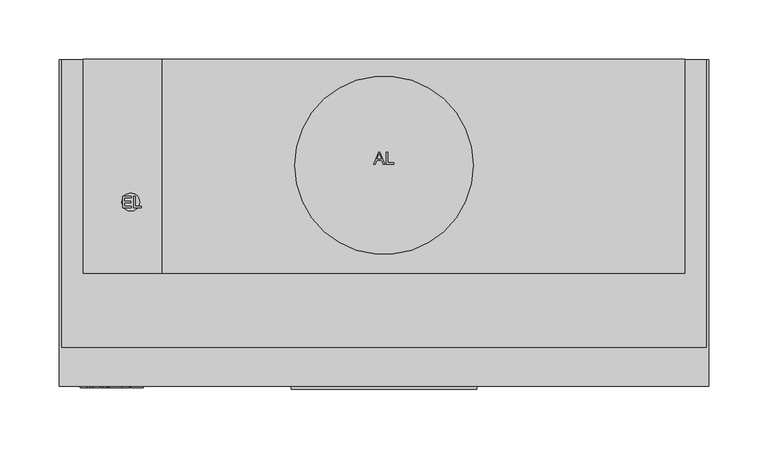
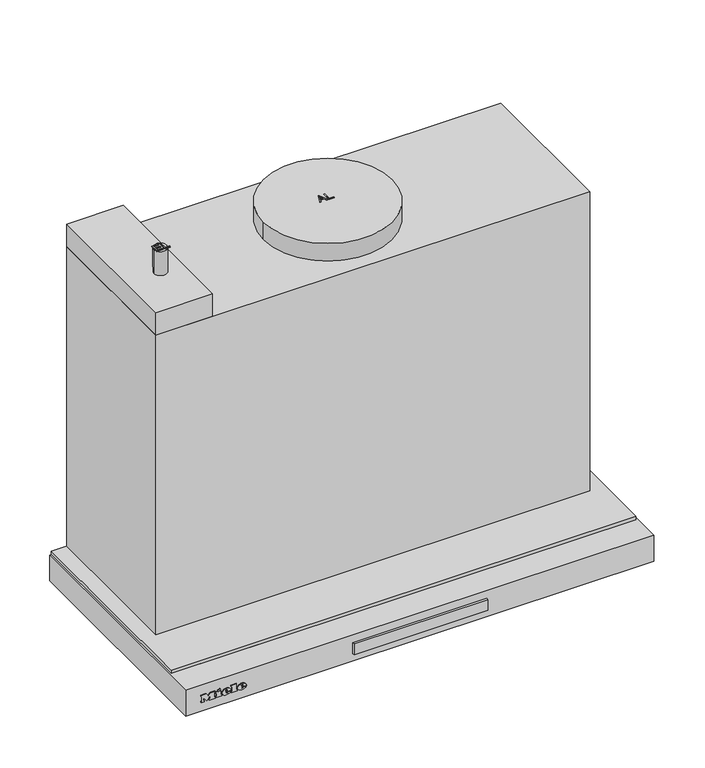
"""IFC4 building model written with IfcOpenShell, lengths in millimetres: proxy geometry, 12541030_CH_DAS4520_MASW : 28S4520M_CH_12541030_DAS4520_MASW."""

import ifcopenshell
import ifcopenshell.guid

model = None  # the IFC model being written
_history = None  # IfcOwnerHistory: only IFC2X3 demands one
_inside = {}  # id of a spatial element -> (the spatial element, [elements in it])
_under = {}  # id of a project, library or spatial element -> (it, [spatial elements below it])
_declared = {}  # id of a project -> (the project, [libraries it declares])
_typed = {}  # id of a type object -> (the type object, [elements of that type])
_made_of = {}  # id of a material, layer set ... -> (it, [elements and type objects made of it])


def new_model(schema):
    """Start an empty IFC model of exactly this schema.

    Asked for "IFC4X3", IfcOpenShell would pick the latest addendum, in which some entities
    have other attributes; the version numbers below select the first issue.
    IFC2X3 requires an IfcOwnerHistory on every rooted entity: one is made here for all.
    """
    global model, _history
    if schema == "IFC4X3":
        model = ifcopenshell.file(schema_version=(4, 3, 0, 0))
    else:
        model = ifcopenshell.file(schema=schema)
    _inside.clear()
    _under.clear()
    _declared.clear()
    _typed.clear()
    _made_of.clear()
    _history = None
    if model.schema == "IFC2X3":
        org = make("IfcOrganization", Name="unknown")
        user = make(
            "IfcPersonAndOrganization",
            ThePerson=make("IfcPerson", FamilyName="unknown"),
            TheOrganization=org,
        )
        app = make(
            "IfcApplication",
            ApplicationDeveloper=org,
            Version="unknown",
            ApplicationFullName="unknown",
            ApplicationIdentifier="unknown",
        )
        _history = make(
            "IfcOwnerHistory",
            OwningUser=user,
            OwningApplication=app,
            ChangeAction="ADDED",
            CreationDate=0,
        )
    return model


def make(cls, **values):
    """One entity of the class cls with the attributes given. An attribute that is None is left unset."""
    return model.create_entity(
        cls, **{name: value for name, value in values.items() if value is not None}
    )


def rooted(cls, **values):
    """An entity with a GlobalId (a new one), such as an element, a storey or a relation."""
    return make(cls, GlobalId=ifcopenshell.guid.new(), OwnerHistory=_history, **values)


def si_unit(unit_type, name, prefix=None):
    """IfcSIUnit, for example si_unit("LENGTHUNIT", "METRE", prefix="MILLI")."""
    return make("IfcSIUnit", UnitType=unit_type, Prefix=prefix, Name=name)


def assignment(units):
    """IfcUnitAssignment: the units of a project."""
    return None if units is None else make("IfcUnitAssignment", Units=units)


def point(xyz):
    """IfcCartesianPoint."""
    return None if xyz is None else make("IfcCartesianPoint", Coordinates=xyz)


def direction(xyz):
    """IfcDirection."""
    return None if xyz is None else make("IfcDirection", DirectionRatios=xyz)


def frame(location, z_axis=None, x_axis=None):
    """IfcAxis2Placement3D, a coordinate frame: its origin and axes. An axis left out is left unset."""
    return make(
        "IfcAxis2Placement3D",
        Location=point(location),
        Axis=direction(z_axis),
        RefDirection=direction(x_axis),
    )


def frame_2d(location, x_axis=None):
    """IfcAxis2Placement2D, a coordinate frame in the plane: its origin and x axis."""
    return make(
        "IfcAxis2Placement2D", Location=point(location), RefDirection=direction(x_axis)
    )


def origin():
    """The frame at (0, 0, 0) with its axes left unset."""
    return frame((0.0, 0.0, 0.0))


def origin_with_axes():
    """The frame at (0, 0, 0) with the z axis (0, 0, 1) and the x axis (1, 0, 0) written out."""
    return frame((0.0, 0.0, 0.0), z_axis=(0.0, 0.0, 1.0), x_axis=(1.0, 0.0, 0.0))


def place(relative_to, where):
    """IfcLocalPlacement: puts the frame where relative to a parent placement (None: the world)."""
    return make(
        "IfcLocalPlacement", PlacementRelTo=relative_to, RelativePlacement=where
    )


def context(
    kind, dimensions, precision=None, world=None, true_north=None, identifier=None
):
    """IfcGeometricRepresentationContext, for example the 3D "Model" context."""
    return make(
        "IfcGeometricRepresentationContext",
        ContextIdentifier=identifier,
        ContextType=kind,
        CoordinateSpaceDimension=dimensions,
        Precision=precision,
        WorldCoordinateSystem=world,
        TrueNorth=true_north,
    )


def project(units=None, contexts=None):
    """IfcProject with its units and contexts."""
    return rooted(
        "IfcProject",
        Name="project",
        RepresentationContexts=contexts,
        UnitsInContext=assignment(units),
    )


def spatial(cls, under=None, at=None, **own):
    """A site, building, storey or space (cls), placed at a placement, below another one or the project."""
    s = rooted(cls, ObjectPlacement=at, **own)
    if under is not None:
        _under.setdefault(under.id(), (under, []))[1].append(s)
    return s


def polyline(points):
    """IfcPolyline through the points."""
    return make("IfcPolyline", Points=[point(p) for p in points])


def circle_curve(where, radius):
    """IfcCircle in the frame where."""
    return make("IfcCircle", Position=where, Radius=radius)


def ellipse_curve(where, semi_axis1, semi_axis2):
    """IfcEllipse in the frame where."""
    return make(
        "IfcEllipse", Position=where, SemiAxis1=semi_axis1, SemiAxis2=semi_axis2
    )


def trimmed(basis, trim1, trim2, sense, master):
    """IfcTrimmedCurve: the piece of a basis curve between two trims."""
    return make(
        "IfcTrimmedCurve",
        BasisCurve=basis,
        Trim1=trim1,
        Trim2=trim2,
        SenseAgreement=sense,
        MasterRepresentation=master,
    )


def segment(curve, same_sense, transition):
    """IfcCompositeCurveSegment."""
    return make(
        "IfcCompositeCurveSegment",
        Transition=transition,
        SameSense=same_sense,
        ParentCurve=curve,
    )


def composite_curve(segments, self_intersect=None):
    """IfcCompositeCurve: segments joined end to end."""
    return make("IfcCompositeCurve", Segments=segments, SelfIntersect=self_intersect)


def outline(outer, holes=None, kind="AREA"):
    """IfcArbitraryClosedProfileDef: a profile drawn as a closed curve; with holes, ...WithVoids."""
    if holes is None:
        return make("IfcArbitraryClosedProfileDef", ProfileType=kind, OuterCurve=outer)
    return make(
        "IfcArbitraryProfileDefWithVoids",
        ProfileType=kind,
        OuterCurve=outer,
        InnerCurves=holes,
    )


def extrude(swept, where, along, depth):
    """IfcExtrudedAreaSolid: the profile swept, set in the frame where, extruded along a direction by depth."""
    return make(
        "IfcExtrudedAreaSolid",
        SweptArea=swept,
        Position=where,
        ExtrudedDirection=direction(along),
        Depth=depth,
    )


def faces_of(points, faces, orient=None, outer=None):
    """IfcFace entities. A face is a list of loops; a loop is a list of indices into points, from 0.

    orient and outer hold one flag for each loop. By default every Orientation is true, the
    first loop of a face is its IfcFaceOuterBound and the others are IfcFaceBound.
    """
    made = []
    for i, loops in enumerate(faces):
        bounds = []
        for j, loop in enumerate(loops):
            is_outer = j == 0 if outer is None else outer[i][j]
            bounds.append(
                make(
                    "IfcFaceOuterBound" if is_outer else "IfcFaceBound",
                    Bound=make("IfcPolyLoop", Polygon=[points[k] for k in loop]),
                    Orientation=True if orient is None else orient[i][j],
                )
            )
        made.append(make("IfcFace", Bounds=bounds))
    return made


def faceted_brep(points, faces, orient=None, outer=None, voids=None):
    """IfcFacetedBrep: a solid bounded by flat faces; with voids (closed shells), ...WithVoids."""
    shared = [point(p) for p in points]
    hull = make("IfcClosedShell", CfsFaces=faces_of(shared, faces, orient, outer))
    if voids is None:
        return make("IfcFacetedBrep", Outer=hull)
    return make(
        "IfcFacetedBrepWithVoids",
        Outer=hull,
        Voids=[
            make(cls, CfsFaces=faces_of(shared, fs, o, b)) for cls, fs, o, b in voids
        ],
    )


def shape(context_of_items, identifier, shape_type, items):
    """IfcShapeRepresentation: the items that make up one representation, for example the "Body"."""
    return make(
        "IfcShapeRepresentation",
        ContextOfItems=context_of_items,
        RepresentationIdentifier=identifier,
        RepresentationType=shape_type,
        Items=items,
    )


def source(mapping_origin, context_of_items, identifier, shape_type, items):
    """IfcRepresentationMap: a shape defined once, which mapped items show again and again."""
    return make(
        "IfcRepresentationMap",
        MappingOrigin=mapping_origin,
        MappedRepresentation=shape(context_of_items, identifier, shape_type, items),
    )


def transform(
    local_origin,
    x_axis=None,
    y_axis=None,
    z_axis=None,
    scale=None,
    scale2=None,
    scale3=None,
    uniform=True,
):
    """IfcCartesianTransformationOperator3D, or its non-uniform kind. x_axis, y_axis, z_axis: its Axis1, 2, 3."""
    if uniform:
        return make(
            "IfcCartesianTransformationOperator3D",
            Axis1=direction(x_axis),
            Axis2=direction(y_axis),
            LocalOrigin=point(local_origin),
            Scale=scale,
            Axis3=direction(z_axis),
        )
    return make(
        "IfcCartesianTransformationOperator3DnonUniform",
        Axis1=direction(x_axis),
        Axis2=direction(y_axis),
        LocalOrigin=point(local_origin),
        Scale=scale,
        Axis3=direction(z_axis),
        Scale2=scale2,
        Scale3=scale3,
    )


def mapped(mapping_source, mapping_target):
    """IfcMappedItem: shows the shape of a source again, moved by a transform."""
    return make(
        "IfcMappedItem", MappingSource=mapping_source, MappingTarget=mapping_target
    )


def made_of(thing, what):
    """Note that an element or type object is made of a material, layer set ...; save() writes the relation."""
    if what is not None:
        _made_of.setdefault(what.id(), (what, []))[1].append(thing)
    return thing


def element(
    cls,
    number,
    at=None,
    inside=None,
    cuts=None,
    type_object=None,
    material=None,
    context=None,
    identifier="Body",
    shape_type=None,
    held_by="IfcProductDefinitionShape",
    body=None,
    shapes=None,
    **own,
):
    """One element of the class cls, such as IfcWall. Its Tag is "e" and its number.

    at: its placement. inside: the storey or other place that contains it. cuts: it is an
    opening in that element (IfcRelVoidsElement). A single representation is given by context,
    identifier, shape_type and body (its items); several are given by shapes. held_by: the class
    of the entity that holds the representations. save() writes the other relations.
    """
    e = rooted(cls, Tag="e%d" % number, ObjectPlacement=at, **own)
    if body is not None:
        shapes = [shape(context, identifier, shape_type, body)]
    if shapes is not None:
        e.Representation = make(held_by, Representations=shapes)
    if inside is not None:
        _inside.setdefault(inside.id(), (inside, []))[1].append(e)
    if cuts is not None:
        rooted(
            "IfcRelVoidsElement", RelatingBuildingElement=cuts, RelatedOpeningElement=e
        )
    if type_object is not None:
        _typed.setdefault(type_object.id(), (type_object, []))[1].append(e)
    return made_of(e, material)


def aggregate(whole, parts):
    """IfcRelAggregates: a whole, such as a stair, and the parts it consists of."""
    return rooted("IfcRelAggregates", RelatingObject=whole, RelatedObjects=parts)


def save(model, path):
    """Write the relations noted so far, then the file.

    IfcRelAggregates (storeys below a building ...), IfcRelContainedInSpatialStructure (elements
    in a storey), IfcRelDefinesByType, IfcRelAssociatesMaterial and IfcRelDeclares: one each for
    every whole, place, type object, material and project.
    """
    for whole, parts in _under.values():
        aggregate(whole, parts)
    for where, things in _inside.values():
        rooted(
            "IfcRelContainedInSpatialStructure",
            RelatedElements=things,
            RelatingStructure=where,
        )
    for kind, things in _typed.values():
        rooted("IfcRelDefinesByType", RelatedObjects=things, RelatingType=kind)
    for what, things in _made_of.values():
        rooted("IfcRelAssociatesMaterial", RelatedObjects=things, RelatingMaterial=what)
    for by, libraries in _declared.values():
        rooted("IfcRelDeclares", RelatingContext=by, RelatedDefinitions=libraries)
    model.write(path)


def plane_surface(at):
    """IfcPlane: the flat surface through the origin of the frame at, square to its z axis."""
    return make("IfcPlane", Position=at)


def cylinder_surface(at, radius):
    """IfcCylindricalSurface: all points at the distance radius from the z axis of the frame at."""
    return make("IfcCylindricalSurface", Position=at, Radius=radius)


def revolved_surface(curve, axis_point, axis_direction):
    """IfcSurfaceOfRevolution: the curve turned about the line through axis_point along axis_direction."""
    return make(
        "IfcSurfaceOfRevolution",
        SweptCurve=make("IfcArbitraryOpenProfileDef", ProfileType="CURVE", Curve=curve),
        AxisPosition=make("IfcAxis1Placement", Location=point(axis_point), Axis=direction(axis_direction)),
    )


def extruded_surface(curve, direction_of_extrusion, depth):
    """IfcSurfaceOfLinearExtrusion: the curve pushed along a direction by depth."""
    return make(
        "IfcSurfaceOfLinearExtrusion",
        SweptCurve=make("IfcArbitraryOpenProfileDef", ProfileType="CURVE", Curve=curve),
        ExtrudedDirection=direction(direction_of_extrusion),
        Depth=depth,
    )


def advanced_brep(points, edges, surfaces, faces):
    """IfcAdvancedBrep: a solid bounded by faces that lie on surfaces and meet in shared edges.

    An edge is (start, end): straight between two places in points (the first is 0);
    or (start, end, curve); or (start, end, curve, False) where it runs against its curve.
    A face is (place in surfaces, loops), or (place, loops, False) where it looks against
    its surface's normal. A loop lists edges by number (the first is 1), with a minus sign
    where the edge is run from its end to its start. The first loop is the outer one.
    """
    corners = [point(p) for p in points]
    vertices = [make("IfcVertexPoint", VertexGeometry=c) for c in corners]
    made = []
    for start, end, *more in edges:
        made.append(
            make(
                "IfcEdgeCurve",
                EdgeStart=vertices[start],
                EdgeEnd=vertices[end],
                EdgeGeometry=more[0] if more else make("IfcPolyline", Points=[corners[start], corners[end]]),
                SameSense=more[1] if len(more) > 1 else True,
            )
        )
    hull = []
    for where, loops, *sense in faces:
        bounds = []
        for j, loop in enumerate(loops):
            ring = [make("IfcOrientedEdge", EdgeElement=made[abs(k) - 1], Orientation=k > 0) for k in loop]
            bounds.append(
                make(
                    "IfcFaceOuterBound" if j == 0 else "IfcFaceBound",
                    Bound=make("IfcEdgeLoop", EdgeList=ring),
                    Orientation=True,
                )
            )
        hull.append(make("IfcAdvancedFace", Bounds=bounds, FaceSurface=surfaces[where], SameSense=sense[0] if sense else True))
    return make("IfcAdvancedBrep", Outer=make("IfcClosedShell", CfsFaces=hull))


def specialty_equipment_4cbf8bed(model_context):
    return source(origin(), model_context, "Body", "SolidModel", [
        extrude(outline(polyline([(78.0, -275.0), (78.0, -277.3978707), (-78.0, -277.3978707), (-78.0, -275.0), (78.0, -275.0)])), frame((0.0, 0.0, -23.0389651), z_axis=(0.0, 0.0, 1.0), x_axis=(1.0, 0.0, 0.0)), (0.0, 0.0, 1.0), 13.3389155),
        advanced_brep(
        [(-208.4590019, -276.0, -18.7681017), (-208.4590019, -276.0, -17.8894017), (-202.6387019, -276.0, -17.8894017), (-212.7655019, -276.0, -17.8894017), (-210.3730019, -276.0, -20.8300017), (-202.7866019, -276.0, -18.7681017), (-205.4140019, -276.0, -18.7681017), (-207.4846019, -276.0, -19.7425017), (-208.4590019, -276.0, -16.7758017), (-208.4590019, -276.0, -15.8275017), (-206.9713019, -276.0, -15.8275017), (-206.9713019, -276.0, -16.7758017), (-208.4590019, -275.0, -18.7681017), (-207.4846019, -275.0, -19.7425017), (-205.4140019, -275.0, -18.7681017), (-202.7866019, -275.0, -18.7681017), (-210.3730019, -275.0, -20.8300017), (-212.7655019, -275.0, -17.8894017), (-202.6387019, -275.0, -17.8894017), (-208.4590019, -275.0, -17.8894017), (-208.4590019, -275.0, -16.7758017), (-206.9713019, -275.0, -16.7758017), (-206.9713019, -275.0, -15.8275017), (-208.4590019, -275.0, -15.8275017)],
        [
            (0, 1),
            (1, 2),
            (2, 3, ellipse_curve(frame((-207.7021019, -276.0, -17.8894017), z_axis=(0.0, -1.0, 0.0), x_axis=(-1.0, 0.0, 0.0)), 5.0634, 4.1847)),
            (3, 4, circle_curve(frame((-209.3985544, -276.0, -17.5936017), z_axis=(0.0, -1.0, 0.0), x_axis=(0.0, 0.0, -1.0)), 3.3799161)),
            (4, 5, circle_curve(frame((-207.8034638, -276.0, -15.2968017), z_axis=(0.0, -1.0, 0.0), x_axis=(0.0, 0.0, -1.0)), 6.1007236)),
            (5, 6),
            (6, 7, circle_curve(frame((-207.0593254, -276.0, -17.9590017), z_axis=(0.0, 1.0, 0.0), x_axis=(0.0, 0.0, -1.0)), 1.8335027)),
            (7, 0, circle_curve(frame((-207.4846019, -276.0, -18.7681017), z_axis=(0.0, 1.0, 0.0), x_axis=(0.0, 0.0, -1.0)), 0.9744)),
            (8, 9),
            (9, 10, circle_curve(frame((-207.7151519, -276.0, -15.8275017), z_axis=(0.0, 1.0, 0.0), x_axis=(0.0, 0.0, -1.0)), 0.74385)),
            (10, 11),
            (11, 8),
            (12, 13, circle_curve(frame((-207.4846019, -275.0, -18.7681017), z_axis=(0.0, -1.0, 0.0), x_axis=(0.0, 0.0, -1.0)), 0.9744)),
            (13, 14, circle_curve(frame((-207.0593254, -275.0, -17.9590017), z_axis=(0.0, -1.0, 0.0), x_axis=(0.0, 0.0, -1.0)), 1.8335027)),
            (14, 15),
            (15, 16, circle_curve(frame((-207.8034638, -275.0, -15.2968017), z_axis=(0.0, 1.0, 0.0), x_axis=(0.0, 0.0, -1.0)), 6.1007236)),
            (16, 17, circle_curve(frame((-209.3985544, -275.0, -17.5936017), z_axis=(0.0, 1.0, 0.0), x_axis=(0.0, 0.0, -1.0)), 3.3799161)),
            (17, 18, ellipse_curve(frame((-207.7021019, -275.0, -17.8894017), z_axis=(0.0, 1.0, 0.0), x_axis=(-1.0, 0.0, 0.0)), 5.0634, 4.1847)),
            (18, 19),
            (19, 12),
            (20, 21),
            (21, 22),
            (22, 23, circle_curve(frame((-207.7151519, -275.0, -15.8275017), z_axis=(0.0, -1.0, 0.0), x_axis=(0.0, 0.0, -1.0)), 0.74385)),
            (23, 20),
            (0, 12),
            (19, 1),
            (18, 2),
            (5, 15),
            (14, 6),
            (17, 3),
            (13, 7),
            (16, 4),
            (8, 20),
            (23, 9),
            (22, 10),
            (21, 11),
        ],
        [
            plane_surface(frame((-208.4590019, -276.0, -17.8894017), z_axis=(0.0, -1.0, 0.0), x_axis=(0.0, 0.0, 1.0))),
            plane_surface(frame((-208.4590019, -275.0, -17.8894017), z_axis=(0.0, 1.0, 0.0), x_axis=(0.0, 0.0, -1.0))),
            plane_surface(frame((-208.4590019, -276.0, -18.7681017), z_axis=(1.0, 0.0, 0.0), x_axis=(0.0, 1.0, 0.0))),
            plane_surface(frame((-208.4590019, -276.0, -17.8894017), z_axis=(0.0, 0.0, -1.0), x_axis=(0.0, 1.0, 0.0))),
            plane_surface(frame((-202.7866019, -276.0, -18.7681017), z_axis=(0.0, 0.0, 1.0), x_axis=(0.0, 1.0, 0.0))),
            extruded_surface(trimmed(ellipse_curve(frame((-207.7021019, -274.0, -17.8894017), z_axis=(0.0, -1.0, 0.0), x_axis=(-1.0, 0.0, 0.0)), 5.0634, 4.1847), [point((-202.6387019, -274.0, -17.8894017))], [point((-212.7655019, -274.0, -17.8894017))], True, "CARTESIAN"), (0.0, -1.0, 0.0), 1.0),
            revolved_surface(polyline([(-207.0593254, -275.0, -19.792504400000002), (-207.0593254, -276.0, -19.792504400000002)]), (-207.0593254, -275.0, -17.9590017), (0.0, 1.0, 0.0)),
            revolved_surface(polyline([(-207.4846019, -275.0, -19.7425017), (-207.4846019, -276.0, -19.7425017)]), (-207.4846019, -275.0, -18.7681017), (0.0, 1.0, 0.0)),
            cylinder_surface(frame((-209.3985544, -275.0, -17.5936017), z_axis=(0.0, -1.0, 0.0), x_axis=(0.0, 0.0, -1.0)), 3.3799161),
            cylinder_surface(frame((-207.8034638, -275.0, -15.2968017), z_axis=(0.0, -1.0, 0.0), x_axis=(0.0, 0.0, -1.0)), 6.1007236),
            plane_surface(frame((-208.4590019, -276.0, -16.7758017), z_axis=(1.0, 0.0, 0.0), x_axis=(0.0, 1.0, 0.0))),
            revolved_surface(polyline([(-207.7151519, -275.0, -16.571351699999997), (-207.7151519, -276.0, -16.571351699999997)]), (-207.7151519, -275.0, -15.8275017), (0.0, 1.0, 0.0)),
            plane_surface(frame((-206.9713019, -276.0, -15.8275017), z_axis=(-1.0, 0.0, 0.0), x_axis=(0.0, 1.0, 0.0))),
            plane_surface(frame((-206.9713019, -276.0, -16.7758017), z_axis=(0.0, 0.0, 1.0), x_axis=(0.0, 1.0, 0.0))),
        ],
        [
            (0, [[1, 2, 3, 4, 5, 6, 7, 8], [9, 10, 11, 12]]),
            (1, [[13, 14, 15, 16, 17, 18, 19, 20], [21, 22, 23, 24]]),
            (2, [[-1, 25, -20, 26]]),
            (3, [[-2, -26, -19, 27]]),
            (4, [[-6, 28, -15, 29]]),
            (5, [[-3, -27, -18, 30]]),
            (6, [[-7, -29, -14, 31]]),
            (7, [[-8, -31, -13, -25]]),
            (8, [[-4, -30, -17, 32]]),
            (9, [[-5, -32, -16, -28]]),
            (10, [[-9, 33, -24, 34]]),
            (11, [[-10, -34, -23, 35]]),
            (12, [[-11, -35, -22, 36]]),
            (13, [[-12, -36, -21, -33]]),
        ],
    ),
        advanced_brep(
        [(-226.6159019, -276.0, -18.7681017), (-226.6159019, -276.0, -17.8894017), (-220.7956019, -276.0, -17.8894017), (-230.9224019, -276.0, -17.8894017), (-228.5299019, -276.0, -20.8300017), (-220.9435019, -276.0, -18.7681017), (-223.5709019, -276.0, -18.7681017), (-225.6415019, -276.0, -19.7425017), (-226.6159019, -276.0, -16.7758017), (-226.6159019, -276.0, -15.8275017), (-225.1282019, -276.0, -15.8275017), (-225.1282019, -276.0, -16.7758017), (-226.6159019, -275.0, -18.7681017), (-225.6415019, -275.0, -19.7425017), (-223.5709019, -275.0, -18.7681017), (-220.9435019, -275.0, -18.7681017), (-228.5299019, -275.0, -20.8300017), (-230.9224019, -275.0, -17.8894017), (-220.7956019, -275.0, -17.8894017), (-226.6159019, -275.0, -17.8894017), (-226.6159019, -275.0, -16.7758017), (-225.1282019, -275.0, -16.7758017), (-225.1282019, -275.0, -15.8275017), (-226.6159019, -275.0, -15.8275017)],
        [
            (0, 1),
            (1, 2),
            (2, 3, ellipse_curve(frame((-225.8590019, -276.0, -17.8894017), z_axis=(0.0, -1.0, 0.0), x_axis=(-1.0, 0.0, 0.0)), 5.0634, 4.1847)),
            (3, 4, circle_curve(frame((-227.5554544, -276.0, -17.5936017), z_axis=(0.0, -1.0, 0.0), x_axis=(0.0, 0.0, -1.0)), 3.3799161)),
            (4, 5, circle_curve(frame((-225.9603638, -276.0, -15.2968017), z_axis=(0.0, -1.0, 0.0), x_axis=(0.0, 0.0, -1.0)), 6.1007236)),
            (5, 6),
            (6, 7, circle_curve(frame((-225.2162254, -276.0, -17.9590017), z_axis=(0.0, 1.0, 0.0), x_axis=(0.0, 0.0, -1.0)), 1.8335027)),
            (7, 0, circle_curve(frame((-225.6415019, -276.0, -18.7681017), z_axis=(0.0, 1.0, 0.0), x_axis=(0.0, 0.0, -1.0)), 0.9744)),
            (8, 9),
            (9, 10, circle_curve(frame((-225.8720519, -276.0, -15.8275017), z_axis=(0.0, 1.0, 0.0), x_axis=(0.0, 0.0, -1.0)), 0.74385)),
            (10, 11),
            (11, 8),
            (12, 13, circle_curve(frame((-225.6415019, -275.0, -18.7681017), z_axis=(0.0, -1.0, 0.0), x_axis=(0.0, 0.0, -1.0)), 0.9744)),
            (13, 14, circle_curve(frame((-225.2162254, -275.0, -17.9590017), z_axis=(0.0, -1.0, 0.0), x_axis=(0.0, 0.0, -1.0)), 1.8335027)),
            (14, 15),
            (15, 16, circle_curve(frame((-225.9603638, -275.0, -15.2968017), z_axis=(0.0, 1.0, 0.0), x_axis=(0.0, 0.0, -1.0)), 6.1007236)),
            (16, 17, circle_curve(frame((-227.5554544, -275.0, -17.5936017), z_axis=(0.0, 1.0, 0.0), x_axis=(0.0, 0.0, -1.0)), 3.3799161)),
            (17, 18, ellipse_curve(frame((-225.8590019, -275.0, -17.8894017), z_axis=(0.0, 1.0, 0.0), x_axis=(-1.0, 0.0, 0.0)), 5.0634, 4.1847)),
            (18, 19),
            (19, 12),
            (20, 21),
            (21, 22),
            (22, 23, circle_curve(frame((-225.8720519, -275.0, -15.8275017), z_axis=(0.0, -1.0, 0.0), x_axis=(0.0, 0.0, -1.0)), 0.74385)),
            (23, 20),
            (0, 12),
            (19, 1),
            (18, 2),
            (5, 15),
            (14, 6),
            (17, 3),
            (13, 7),
            (16, 4),
            (8, 20),
            (23, 9),
            (22, 10),
            (21, 11),
        ],
        [
            plane_surface(frame((-226.6159019, -276.0, -17.8894017), z_axis=(0.0, -1.0, 0.0), x_axis=(0.0, 0.0, 1.0))),
            plane_surface(frame((-226.6159019, -275.0, -17.8894017), z_axis=(0.0, 1.0, 0.0), x_axis=(0.0, 0.0, -1.0))),
            plane_surface(frame((-226.6159019, -276.0, -18.7681017), z_axis=(1.0, 0.0, 0.0), x_axis=(0.0, 1.0, 0.0))),
            plane_surface(frame((-226.6159019, -276.0, -17.8894017), z_axis=(0.0, 0.0, -1.0), x_axis=(0.0, 1.0, 0.0))),
            plane_surface(frame((-220.9435019, -276.0, -18.7681017), z_axis=(0.0, 0.0, 1.0), x_axis=(0.0, 1.0, 0.0))),
            extruded_surface(trimmed(ellipse_curve(frame((-225.8590019, -274.0, -17.8894017), z_axis=(0.0, -1.0, 0.0), x_axis=(-1.0, 0.0, 0.0)), 5.0634, 4.1847), [point((-220.7956019, -274.0, -17.8894017))], [point((-230.9224019, -274.0, -17.8894017))], True, "CARTESIAN"), (0.0, -1.0, 0.0), 1.0),
            revolved_surface(polyline([(-225.2162254, -275.0, -19.792504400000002), (-225.2162254, -276.0, -19.792504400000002)]), (-225.2162254, -275.0, -17.9590017), (0.0, 1.0, 0.0)),
            revolved_surface(polyline([(-225.6415019, -275.0, -19.7425017), (-225.6415019, -276.0, -19.7425017)]), (-225.6415019, -275.0, -18.7681017), (0.0, 1.0, 0.0)),
            cylinder_surface(frame((-227.5554544, -275.0, -17.5936017), z_axis=(0.0, -1.0, 0.0), x_axis=(0.0, 0.0, -1.0)), 3.3799161),
            cylinder_surface(frame((-225.9603638, -275.0, -15.2968017), z_axis=(0.0, -1.0, 0.0), x_axis=(0.0, 0.0, -1.0)), 6.1007236),
            plane_surface(frame((-226.6159019, -276.0, -16.7758017), z_axis=(1.0, 0.0, 0.0), x_axis=(0.0, 1.0, 0.0))),
            revolved_surface(polyline([(-225.8720519, -275.0, -16.571351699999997), (-225.8720519, -276.0, -16.571351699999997)]), (-225.8720519, -275.0, -15.8275017), (0.0, 1.0, 0.0)),
            plane_surface(frame((-225.1282019, -276.0, -15.8275017), z_axis=(-1.0, 0.0, 0.0), x_axis=(0.0, 1.0, 0.0))),
            plane_surface(frame((-225.1282019, -276.0, -16.7758017), z_axis=(0.0, 0.0, 1.0), x_axis=(0.0, 1.0, 0.0))),
        ],
        [
            (0, [[1, 2, 3, 4, 5, 6, 7, 8], [9, 10, 11, 12]]),
            (1, [[13, 14, 15, 16, 17, 18, 19, 20], [21, 22, 23, 24]]),
            (2, [[-1, 25, -20, 26]]),
            (3, [[-2, -26, -19, 27]]),
            (4, [[-6, 28, -15, 29]]),
            (5, [[-3, -27, -18, 30]]),
            (6, [[-7, -29, -14, 31]]),
            (7, [[-8, -31, -13, -25]]),
            (8, [[-4, -30, -17, 32]]),
            (9, [[-5, -32, -16, -28]]),
            (10, [[-9, 33, -24, 34]]),
            (11, [[-10, -34, -23, 35]]),
            (12, [[-11, -35, -22, 36]]),
            (13, [[-12, -36, -21, -33]]),
        ],
    ),
        extrude(outline(polyline([(-12.6433017, -236.1250019), (-14.0527017, -235.4638019), (-12.6781017, -232.5145019), (-11.2687017, -233.1670019), (-12.6433017, -236.1250019)])), frame((0.0, -276.0, 0.0), z_axis=(0.0, 1.0, 0.0), x_axis=(0.0, 0.0, 1.0)), (0.0, 0.0, 1.0), 1.0),
        extrude(outline(polyline([(-14.2441017, -238.2739019), (-15.8014017, -238.2739019), (-15.8014017, -237.2386019), (-19.3684017, -237.2386019), (-19.3684017, -238.2739019), (-20.8300017, -238.2739019), (-20.8300017, -231.4096019), (-19.3684017, -231.4096019), (-19.3684017, -232.4188019), (-14.2441017, -232.4188019), (-14.2441017, -238.2739019)])), frame((0.0, -276.0, 0.0), z_axis=(0.0, 1.0, 0.0), x_axis=(0.0, 0.0, 1.0)), (0.0, 0.0, 1.0), 1.0),
        extrude(outline(polyline([(-13.5481017, -220.3084019), (-13.5481017, -219.2644019), (-19.3684017, -219.2644019), (-19.3684017, -220.3084019), (-20.8300017, -220.3084019), (-20.8300017, -213.2527019), (-19.3684017, -213.2527019), (-19.3684017, -214.3228019), (-12.1300017, -214.3228019), (-12.1300017, -220.3084019), (-13.5481017, -220.3084019)])), frame((0.0, -276.0, 0.0), z_axis=(0.0, 1.0, 0.0), x_axis=(0.0, 0.0, 1.0)), (0.0, 0.0, 1.0), 1.0),
        extrude(outline(polyline([(-13.5481017, -255.6130019), (-13.5481017, -254.5603019), (-19.3684017, -254.5603019), (-19.3684017, -255.6130019), (-20.8300017, -255.6130019), (-20.8300017, -251.7850019), (-19.3684017, -251.7850019), (-19.3684017, -252.8290019), (-15.6719769, -252.8290019), (-20.8300017, -248.9401019), (-15.5772794, -245.0338019), (-19.3684017, -245.0338019), (-19.3684017, -246.1039019), (-20.8300017, -246.1039019), (-20.8300017, -239.1613019), (-19.3684017, -239.1613019), (-19.3684017, -240.2662019), (-13.5481017, -240.2662019), (-13.5481017, -239.1613019), (-12.1300017, -239.1613019), (-12.1300017, -244.4596019), (-15.3925017, -247.0000019), (-12.1300017, -249.5491019), (-12.1300017, -255.6130019), (-13.5481017, -255.6130019)])), frame((0.0, -276.0, 0.0), z_axis=(0.0, 1.0, 0.0), x_axis=(0.0, 0.0, 1.0)), (0.0, 0.0, 1.0), 1.0),
        extrude(outline(polyline([(253.0, -180.0), (-253.0, -180.0), (-253.0, 0.0), (253.0, 0.0), (253.0, -180.0)])), frame((0.0, 0.0, 4.0), z_axis=(0.0, 0.0, 1.0), x_axis=(1.0, 0.0, 0.0)), (0.0, 0.0, 1.0), 369.0),
        extrude(outline(composite_curve([segment(trimmed(circle_curve(frame_2d((0.0, -89.0)), 75.0), [point((-75.0, -89.0))], [point((75.0, -89.0))], False, "CARTESIAN"), True, "CONTINUOUS"), segment(trimmed(circle_curve(frame_2d((0.0, -89.0)), 75.0), [point((75.0, -89.0))], [point((-75.0, -89.0))], False, "CARTESIAN"), True, "CONTINUOUS")], self_intersect=False)), frame((0.0, 0.0, 373.0), z_axis=(0.0, 0.0, 1.0), x_axis=(1.0, 0.0, 0.0)), (0.0, 0.0, 1.0), 22.0),
        extrude(outline(polyline([(-253.0, -180.0), (-253.0, 0.0), (-187.0, 0.0), (-187.0, -180.0), (-253.0, -180.0)])), frame((0.0, 0.0, 373.0), z_axis=(0.0, 0.0, 1.0), x_axis=(1.0, 0.0, 0.0)), (0.0, 0.0, 1.0), 28.0),
        extrude(outline(polyline([(-8.547125, -87.975609), (-4.5372113, -77.929978), (-3.4679009, -77.929978), (0.5420128, -87.975609), (-0.7848149, -87.975609), (-1.9350593, -84.8363493), (-6.0725055, -84.8363493), (-7.2202973, -87.975609), (-8.547125, -87.975609)]), holes=[polyline([(-5.6114267, -83.5806455), (-2.3936855, -83.5806455), (-3.2986752, -81.110931), (-4.0025561, -79.1856819), (-4.6279555, -80.8951069), (-5.6114267, -83.5806455)])]), frame((0.0, 0.0, 395.0), z_axis=(0.0, 0.0, 1.0), x_axis=(1.0, 0.0, 0.0)), (0.0, 0.0, 1.0), 1.0),
        extrude(outline(polyline([(1.8835558, -87.975609), (1.8835558, -77.929978), (3.1392597, -77.929978), (3.1392597, -86.7199052), (8.1620752, -86.7199052), (8.1620752, -87.975609), (1.8835558, -87.975609)])), frame((0.0, 0.0, 395.0), z_axis=(0.0, 0.0, 1.0), x_axis=(1.0, 0.0, 0.0)), (0.0, 0.0, 1.0), 1.0),
        extrude(outline(polyline([(271.0, 0.0), (271.0, -242.0), (-271.0, -242.0), (-271.0, 0.0), (271.0, 0.0)])), origin_with_axes(), (0.0, 0.0, 1.0), 4.0),
        extrude(outline(polyline([(120.0, -19.25), (120.0, -31.75), (-120.0, -31.75), (-120.0, -19.25), (120.0, -19.25)])), frame((0.0, 0.0, -23.0), z_axis=(0.0, 0.0, 1.0), x_axis=(1.0, 0.0, 0.0)), (0.0, 0.0, 1.0), 1.785426),
        extrude(outline(polyline([(156.0813184, -268.0), (156.0813184, -246.0), (224.0, -246.0), (224.0, -268.0), (156.0813184, -268.0)])), frame((0.0, 0.0, -33.3019181), z_axis=(0.0, 0.0, 1.0), x_axis=(1.0, 0.0, 0.0)), (0.0, 0.0, 1.0), 1.3019181),
        extrude(outline(polyline([(-224.0, -268.0), (-224.0, -246.0), (-156.0, -246.0), (-156.0, -268.0), (-224.0, -268.0)])), frame((0.0, 0.0, -33.3019181), z_axis=(0.0, 0.0, 1.0), x_axis=(1.0, 0.0, 0.0)), (0.0, 0.0, 1.0), 1.3019181),
        extrude(outline(composite_curve([segment(trimmed(circle_curve(frame_2d((-213.0, -120.0)), 7.5), [point((-205.5, -120.0))], [point((-220.5, -120.0))], False, "CARTESIAN"), True, "CONTINUOUS"), segment(trimmed(circle_curve(frame_2d((-213.0, -120.0)), 7.5), [point((-220.5, -120.0))], [point((-205.5, -120.0))], False, "CARTESIAN"), True, "CONTINUOUS")], self_intersect=False)), frame((0.0, 0.0, 401.0), z_axis=(0.0, 0.0, 1.0), x_axis=(1.0, 0.0, 0.0)), (0.0, 0.0, 1.0), 30.0),
        extrude(outline(polyline([(-210.640443, -124.9184735), (-210.640443, -114.8728425), (-209.3847391, -114.8728425), (-209.3847391, -123.6627696), (-204.3619236, -123.6627696), (-204.3619236, -124.9184735), (-210.640443, -124.9184735)])), frame((0.0, 0.0, 431.0), z_axis=(0.0, 0.0, 1.0), x_axis=(1.0, 0.0, 0.0)), (0.0, 0.0, 1.0), 1.0),
        extrude(outline(polyline([(-219.9012591, -124.9184735), (-219.9012591, -114.8728425), (-212.6809618, -114.8728425), (-212.6809618, -116.1285464), (-218.6455552, -116.1285464), (-218.6455552, -119.1108431), (-212.9948878, -119.1108431), (-212.9948878, -120.366547), (-218.6455552, -120.366547), (-218.6455552, -123.6627696), (-212.5239988, -123.6627696), (-212.5239988, -124.9184735), (-219.9012591, -124.9184735)])), frame((0.0, 0.0, 431.0), z_axis=(0.0, 0.0, 1.0), x_axis=(1.0, 0.0, 0.0)), (0.0, 0.0, 1.0), 1.0),
        extrude(outline(polyline([(-273.0, 0.0), (-238.0, 0.0), (-238.0, -242.0), (238.0, -242.0), (238.0, 0.0), (273.0, 0.0), (273.0, -275.0), (-273.0, -275.0), (-273.0, 0.0)])), frame((0.0, 0.0, -32.0), z_axis=(0.0, 0.0, 1.0), x_axis=(1.0, 0.0, 0.0)), (0.0, 0.0, 1.0), 32.0),
        faceted_brep([(-126.0, -39.0, -24.0), (-126.0, -39.0, 0.0), (126.0, -39.0, 0.0), (126.0, -39.0, -24.0), (-126.0, -12.0, -24.0), (-126.0, -12.0, 0.0), (126.0, -12.0, -24.0), (126.0, -12.0, 0.0), (-238.0, -242.0, 0.0), (-238.0, 0.0, 0.0), (-238.0, 0.0, -24.0), (-238.0, -52.0, -24.0), (-238.0, -52.0, -25.0), (-238.0, -242.0, -25.0), (238.0, -52.0, -25.0), (238.0, -242.0, -25.0), (238.0, -52.0, -24.0), (238.0, 0.0, -24.0), (238.0, 0.0, 0.0), (238.0, -242.0, 0.0)], [[[0, 1, 2, 3]], [[4, 5, 1, 0]], [[6, 7, 5, 4]], [[8, 9, 10, 11, 12, 13]], [[13, 12, 14, 15]], [[16, 11, 10, 17], [6, 4, 0, 3]], [[11, 16, 14, 12]], [[18, 9, 8, 19], [5, 7, 2, 1]], [[9, 18, 17, 10]], [[19, 8, 13, 15]], [[18, 19, 15, 14, 16, 17]], [[7, 6, 3, 2]]]),
        extrude(outline(polyline([(126.0, -12.0), (126.0, -39.0), (-126.0, -39.0), (-126.0, -12.0), (126.0, -12.0)]), holes=[polyline([(120.0, -19.25), (-120.0, -19.25), (-120.0, -31.75), (120.0, -31.75), (120.0, -19.25)])]), frame((0.0, 0.0, -21.214574), z_axis=(0.0, 0.0, 1.0), x_axis=(1.0, 0.0, 0.0)), (0.0, 0.0, 1.0), 21.214574),
    ])


if __name__ == "__main__":
    model = new_model("IFC4")
    model_context = context("Model", 3, world=origin())
    ifc_project = project(units=[si_unit("LENGTHUNIT", "METRE", prefix="MILLI")], contexts=[model_context])
    site = spatial("IfcSite", under=ifc_project)
    building = spatial("IfcBuilding", under=site)
    placement = place(None, origin())
    specialty_equipment_shape = specialty_equipment_4cbf8bed(model_context)
    element("IfcBuildingElementProxy", 1, Name="12541030_CH_DAS4520_MASW : 28S4520M_CH_12541030_DAS4520_MASW", ObjectType="12541030_CH_DAS4520_MASW : 28S4520M_CH_12541030_DAS4520_MASW", at=placement, inside=building, context=model_context, shape_type="MappedRepresentation", body=[
        mapped(specialty_equipment_shape, transform((0.0, 0.0, 0.0), x_axis=(1.0, 0.0, 0.0), y_axis=(0.0, 1.0, 0.0), z_axis=(0.0, 0.0, 1.0))),
    ])
    save(model, "model.ifc")
